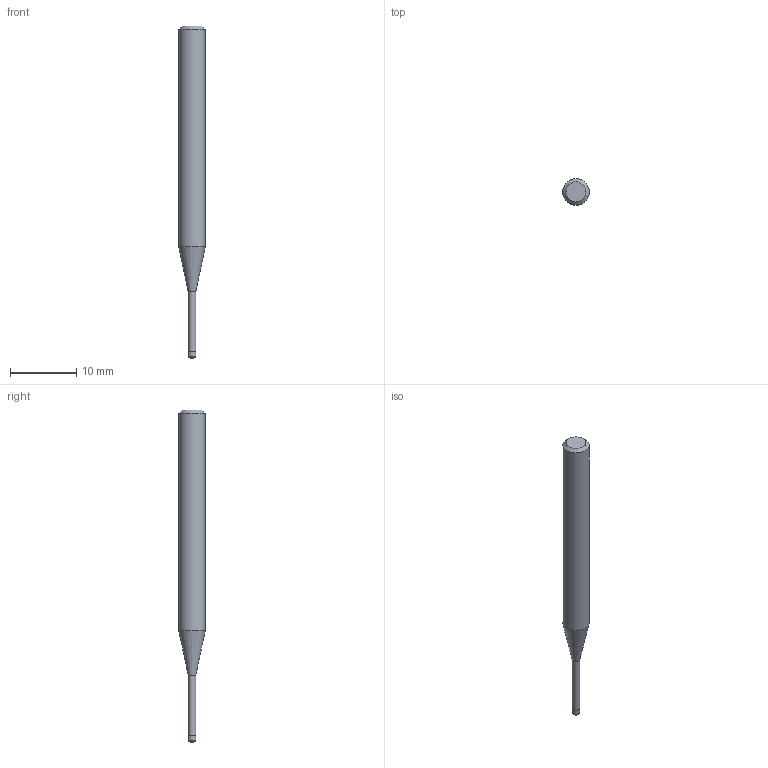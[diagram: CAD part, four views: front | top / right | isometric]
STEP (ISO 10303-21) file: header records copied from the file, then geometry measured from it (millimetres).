
FILE_DESCRIPTION((''),'2;1');
FILE_NAME('C:\Users\nsx150\AppData\Local\Temp\Mastercam 2021\17T8Q8S9EB\TEMP.step','2021-04-21T14:35:15',(''),(''),'STEP Write','Mastercam 2021 ... CNC Software, Inc.','');
FILE_SCHEMA(('AUTOMOTIVE_DESIGN'));
Length unit declared in the file: millimetre
Products named in the file (1): None
Bounding box: 4 x 4 x 50 mm (x, y, z)
Volume: 465.4 mm3; surface area: 521 mm2
Topology: 2 solids, 2 shells, 10 faces, 14 edges, 8 vertices
Faces by surface type: plane 4, cylinder 3, cone 2, torus 1
Full cylindrical faces by diameter (mm): 1.14 x1, 1.2 x1, 4 x1
Entity records: 232 total; most frequent: DIRECTION 40, CARTESIAN_POINT 28, AXIS2_PLACEMENT_3D 20, ORIENTED_EDGE 16, EDGE_LOOP 16, STYLED_ITEM 13, ADVANCED_FACE 10, FACE_BOUND 10
